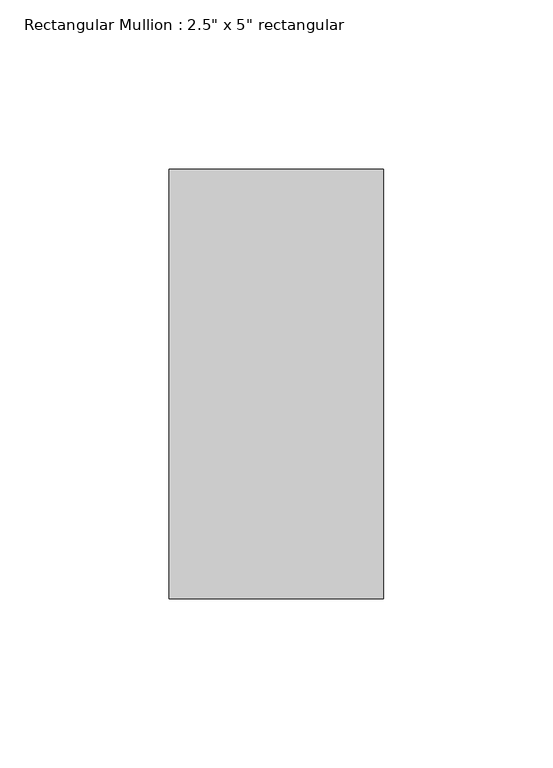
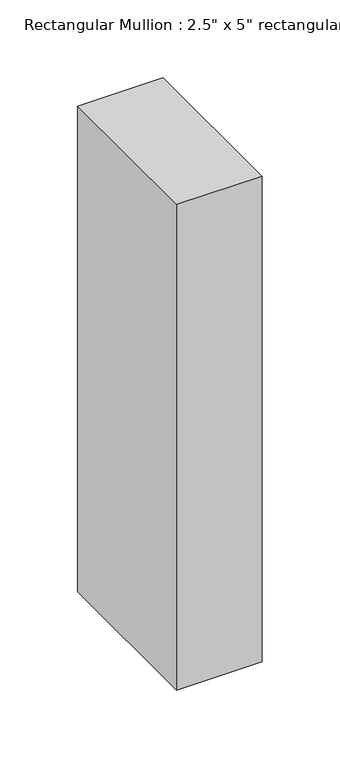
"""IFC4 building model written with IfcOpenShell, lengths in millimetres: member geometry."""

from ifc_helpers import new_model, si_unit, frame, origin, place, context, project, spatial, polyline, outline, extrude, source, transform, mapped, element, save


def member_03a502dc(model_context):
    return source(origin(), model_context, "Body", "SweptSolid", [
        extrude(outline(polyline([(31.75, 63.5), (31.75, -63.5), (-31.75, -63.5), (-31.75, 63.5), (31.75, 63.5)])), frame((0.0, 0.0, -381.0), z_axis=(0.0, 0.0, 1.0), x_axis=(1.0, 0.0, 0.0)), (0.0, 0.0, 1.0), 381.0),
    ])


if __name__ == "__main__":
    model = new_model("IFC4")
    model_context = context("Model", 3, world=origin())
    ifc_project = project(units=[si_unit("LENGTHUNIT", "METRE", prefix="MILLI")], contexts=[model_context])
    site = spatial("IfcSite", under=ifc_project)
    building = spatial("IfcBuilding", under=site)
    placement = place(None, origin())
    member_shape = member_03a502dc(model_context)
    element("IfcMember", 1, ObjectType="Rectangular Mullion : 2.5\" x 5\" rectangular", at=placement, inside=building, context=model_context, shape_type="MappedRepresentation", body=[
        mapped(member_shape, transform((0.0, 0.0, 0.0), x_axis=(1.0, 0.0, 0.0), y_axis=(0.0, 1.0, 0.0), z_axis=(0.0, 0.0, 1.0))),
    ])
    save(model, "model.ifc")
